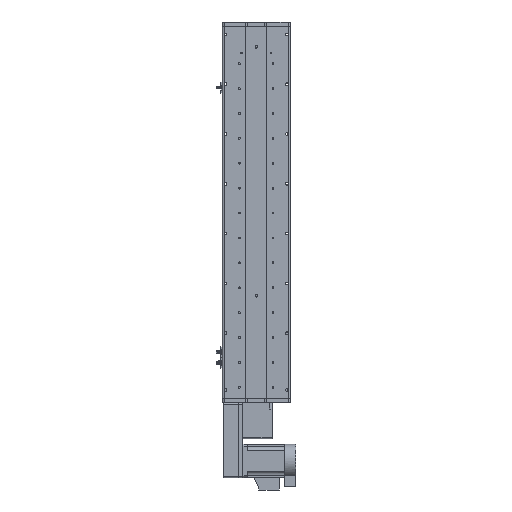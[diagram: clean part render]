
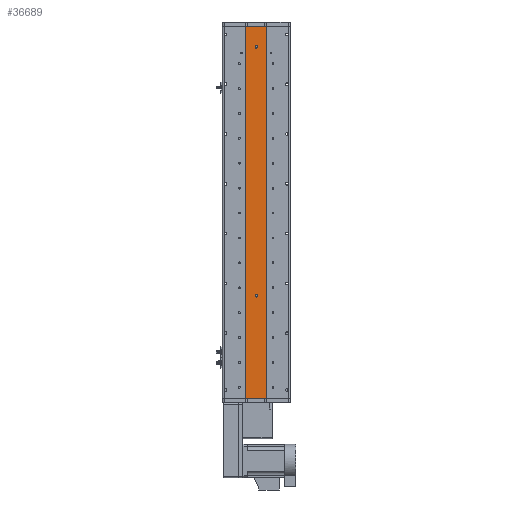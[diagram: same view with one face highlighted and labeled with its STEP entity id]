
A CAD part, front view. The second image highlights one B-rep face of the part: STEP entity #36689.
In plain terms, the highlighted planar face has unit normal (0, -1, 0).
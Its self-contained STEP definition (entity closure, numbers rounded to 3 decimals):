
#906 = CARTESIAN_POINT ( 'NONE',  ( 0., 1., -201.5 ) ) ;
#1903 = CARTESIAN_POINT ( 'NONE',  ( 25., 1., -448.5 ) ) ;
#2387 = DIRECTION ( 'NONE',  ( 0., -1., 0. ) ) ;
#2962 = AXIS2_PLACEMENT_3D ( 'NONE', #28979, #63072, #33871 ) ;
#4157 = CARTESIAN_POINT ( 'NONE',  ( 25., 1., 448.5 ) ) ;
#4386 = CIRCLE ( 'NONE', #2962, 3. ) ;
#4818 = VERTEX_POINT ( 'NONE', #11627 ) ;
#4903 = ORIENTED_EDGE ( 'NONE', *, *, #35582, .F. ) ;
#5848 = DIRECTION ( 'NONE',  ( 0., 0., -1. ) ) ;
#6569 = CARTESIAN_POINT ( 'NONE',  ( 0., 1., -204.5 ) ) ;
#9092 = DIRECTION ( 'NONE',  ( 0., 1., 0. ) ) ;
#11397 = ORIENTED_EDGE ( 'NONE', *, *, #38638, .F. ) ;
#11627 = CARTESIAN_POINT ( 'NONE',  ( 25., 1., 448.5 ) ) ;
#13495 = EDGE_CURVE ( 'NONE', #31022, #52560, #25179, .T. ) ;
#13515 = DIRECTION ( 'NONE',  ( 0., 0., -1. ) ) ;
#14790 = AXIS2_PLACEMENT_3D ( 'NONE', #31568, #2387, #36484 ) ;
#14855 = VERTEX_POINT ( 'NONE', #33892 ) ;
#15298 = CIRCLE ( 'NONE', #14790, 3. ) ;
#15853 = VECTOR ( 'NONE', #37672, 1000. ) ;
#16231 = ORIENTED_EDGE ( 'NONE', *, *, #44346, .T. ) ;
#16538 = EDGE_CURVE ( 'NONE', #4818, #56159, #61295, .T. ) ;
#16786 = EDGE_LOOP ( 'NONE', ( #4903, #37824 ) ) ;
#16814 = VECTOR ( 'NONE', #55617, 1000. ) ;
#17175 = VERTEX_POINT ( 'NONE', #46924 ) ;
#18141 = CARTESIAN_POINT ( 'NONE',  ( 25., 1., 448.5 ) ) ;
#19242 = VERTEX_POINT ( 'NONE', #6569 ) ;
#20024 = CARTESIAN_POINT ( 'NONE',  ( 0., 1., 398.5 ) ) ;
#20107 = AXIS2_PLACEMENT_3D ( 'NONE', #20024, #54027, #24921 ) ;
#20232 = FACE_BOUND ( 'NONE', #16786, .T. ) ;
#22360 = CARTESIAN_POINT ( 'NONE',  ( 0., 1., 395.5 ) ) ;
#22564 = VERTEX_POINT ( 'NONE', #22360 ) ;
#24921 = DIRECTION ( 'NONE',  ( 0., 0., -1. ) ) ;
#25179 = LINE ( 'NONE', #42674, #38075 ) ;
#26399 = CARTESIAN_POINT ( 'NONE',  ( 25., 1., 448.5 ) ) ;
#26454 = CARTESIAN_POINT ( 'NONE',  ( 25., 1., -448.5 ) ) ;
#26520 = CIRCLE ( 'NONE', #33559, 3. ) ;
#28979 = CARTESIAN_POINT ( 'NONE',  ( 0., 1., -201.5 ) ) ;
#29796 = CARTESIAN_POINT ( 'NONE',  ( -25., 1., -448.5 ) ) ;
#29840 = CARTESIAN_POINT ( 'NONE',  ( -25., 1., 448.5 ) ) ;
#30285 = ORIENTED_EDGE ( 'NONE', *, *, #52544, .F. ) ;
#31022 = VERTEX_POINT ( 'NONE', #29840 ) ;
#31268 = DIRECTION ( 'NONE',  ( 0., 0., -1. ) ) ;
#31568 = CARTESIAN_POINT ( 'NONE',  ( 0., 1., 398.5 ) ) ;
#32574 = CIRCLE ( 'NONE', #20107, 3. ) ;
#33559 = AXIS2_PLACEMENT_3D ( 'NONE', #906, #35010, #5848 ) ;
#33871 = DIRECTION ( 'NONE',  ( 0., 0., -1. ) ) ;
#33892 = CARTESIAN_POINT ( 'NONE',  ( 0., 1., 401.5 ) ) ;
#35010 = DIRECTION ( 'NONE',  ( 0., -1., 0. ) ) ;
#35582 = EDGE_CURVE ( 'NONE', #19242, #17175, #26520, .T. ) ;
#35687 = EDGE_CURVE ( 'NONE', #17175, #19242, #4386, .T. ) ;
#36484 = DIRECTION ( 'NONE',  ( 0., 0., -1. ) ) ;
#36689 = ADVANCED_FACE ( 'NONE', ( #44573, #20232, #47636 ), #38198, .F. ) ;
#37213 = EDGE_LOOP ( 'NONE', ( #16231, #55999, #43002, #46490 ) ) ;
#37559 = AXIS2_PLACEMENT_3D ( 'NONE', #4157, #9092, #43125 ) ;
#37672 = DIRECTION ( 'NONE',  ( 1., 0., 0. ) ) ;
#37824 = ORIENTED_EDGE ( 'NONE', *, *, #35687, .F. ) ;
#38075 = VECTOR ( 'NONE', #13515, 1000. ) ;
#38198 = PLANE ( 'NONE',  #37559 ) ;
#38638 = EDGE_CURVE ( 'NONE', #14855, #22564, #15298, .T. ) ;
#40182 = LINE ( 'NONE', #18141, #15853 ) ;
#42674 = CARTESIAN_POINT ( 'NONE',  ( -25., 1., 448.5 ) ) ;
#42693 = LINE ( 'NONE', #26454, #16814 ) ;
#43002 = ORIENTED_EDGE ( 'NONE', *, *, #61641, .F. ) ;
#43125 = DIRECTION ( 'NONE',  ( 0., 0., 1. ) ) ;
#44346 = EDGE_CURVE ( 'NONE', #52560, #56159, #42693, .T. ) ;
#44573 = FACE_BOUND ( 'NONE', #45613, .T. ) ;
#45613 = EDGE_LOOP ( 'NONE', ( #30285, #11397 ) ) ;
#46490 = ORIENTED_EDGE ( 'NONE', *, *, #13495, .T. ) ;
#46924 = CARTESIAN_POINT ( 'NONE',  ( 0., 1., -198.5 ) ) ;
#47636 = FACE_OUTER_BOUND ( 'NONE', #37213, .T. ) ;
#48316 = VECTOR ( 'NONE', #31268, 1000. ) ;
#52544 = EDGE_CURVE ( 'NONE', #22564, #14855, #32574, .T. ) ;
#52560 = VERTEX_POINT ( 'NONE', #29796 ) ;
#54027 = DIRECTION ( 'NONE',  ( 0., -1., 0. ) ) ;
#55617 = DIRECTION ( 'NONE',  ( 1., 0., 0. ) ) ;
#55999 = ORIENTED_EDGE ( 'NONE', *, *, #16538, .F. ) ;
#56159 = VERTEX_POINT ( 'NONE', #1903 ) ;
#61295 = LINE ( 'NONE', #26399, #48316 ) ;
#61641 = EDGE_CURVE ( 'NONE', #31022, #4818, #40182, .T. ) ;
#63072 = DIRECTION ( 'NONE',  ( 0., -1., 0. ) ) ;
